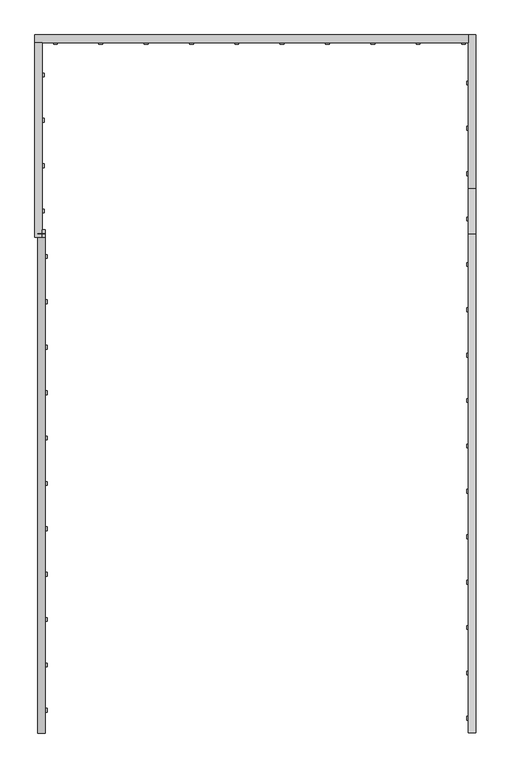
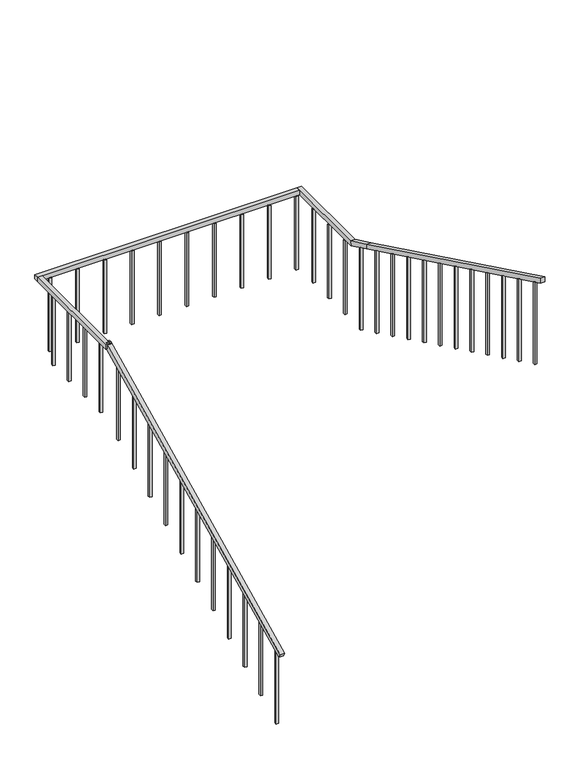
"""IFC4 building model written with IfcOpenShell, lengths in millimetres: railing geometry, ADSK_Стандартное_h 900 Поручень квадратный без направляющих."""

from ifc_helpers import new_model, si_unit, frame, origin, place, context, project, spatial, polyline, outline, extrude, faceted_brep, source, transform, mapped, element, save


def railing_b141eba5(model_context):
    return source(origin(), model_context, "Body", "SolidModel", [
        faceted_brep([(-24826.9240021, 16519.4362632, 1045.8333333), (-24826.9240021, 16541.2958986, 1000.8649406), (-24776.9240021, 16541.2958986, 1000.8649406), (-24776.9240021, 16519.4362632, 1045.8333333), (-24826.9240021, 19819.4362632, 2650.0), (-24776.9240021, 19819.4362632, 2650.0), (-24776.9240021, 19841.2958986, 2605.0316073), (-24826.9240021, 19841.2958986, 2605.0316073)], [[[0, 1, 2, 3]], [[4, 5, 6, 7]], [[1, 0, 4, 7]], [[2, 1, 7, 6]], [[3, 2, 6, 5]], [[0, 3, 5, 4]]]),
        faceted_brep([(-24776.9240021, 19794.8362632, 2650.0), (-24776.9240021, 19794.8362632, 2600.0), (-24776.9240021, 19844.8362632, 2600.0), (-24776.9240021, 19844.8362632, 2650.0), (-24796.9240021, 19794.8362632, 2650.0), (-24796.9240021, 19844.8362632, 2650.0), (-24796.9240021, 19844.8362632, 2600.0), (-24796.9240021, 19794.8362632, 2600.0)], [[[0, 1, 2, 3]], [[4, 5, 6, 7]], [[1, 0, 4, 7]], [[2, 1, 7, 6]], [[3, 2, 6, 5]], [[0, 3, 5, 4]]]),
        faceted_brep([(-24846.9240021, 19794.8362632, 2650.0), (-24846.9240021, 19794.8362632, 2600.0), (-24796.9240021, 19794.8362632, 2600.0), (-24796.9240021, 19794.8362632, 2650.0), (-24846.9240021, 21083.6362632, 2650.0), (-24796.9240021, 21083.6362632, 2650.0), (-24796.9240021, 21083.6362632, 2600.0), (-24846.9240021, 21083.6362632, 2600.0)], [[[0, 1, 2, 3]], [[4, 5, 6, 7]], [[1, 0, 4, 7]], [[2, 1, 7, 6]], [[3, 2, 6, 5]], [[0, 3, 5, 4]]]),
        faceted_brep([(-24846.9240021, 21133.6362632, 2650.0), (-24846.9240021, 21133.6362632, 2600.0), (-24846.9240021, 21083.6362632, 2600.0), (-24846.9240021, 21083.6362632, 2650.0), (-21978.1240021, 21133.6362632, 2650.0), (-21978.1240021, 21083.6362632, 2650.0), (-21978.1240021, 21083.6362632, 2600.0), (-21978.1240021, 21133.6362632, 2600.0)], [[[0, 1, 2, 3]], [[4, 5, 6, 7]], [[1, 0, 4, 7]], [[2, 1, 7, 6]], [[3, 2, 6, 5]], [[0, 3, 5, 4]]]),
        faceted_brep([(-21928.1240021, 21133.6362632, 2650.0), (-21928.1240021, 21133.6362632, 2600.0), (-21978.1240021, 21133.6362632, 2600.0), (-21978.1240021, 21133.6362632, 2650.0), (-21928.1240021, 20119.4362632, 2650.0), (-21928.1240021, 20107.9273629, 2600.0), (-21978.1240021, 20107.9273629, 2600.0), (-21978.1240021, 20119.4362632, 2650.0), (-21928.1240021, 19819.4362632, 2795.8333333), (-21978.1240021, 19819.4362632, 2795.8333333), (-21978.1240021, 19819.4362632, 2740.238729), (-21928.1240021, 19819.4362632, 2740.238729)], [[[0, 1, 2, 3]], [[1, 0, 4, 5]], [[2, 1, 5, 6]], [[3, 2, 6, 7]], [[0, 3, 7, 4]], [[8, 9, 10, 11]], [[5, 4, 8, 11]], [[6, 5, 11, 10]], [[7, 6, 10, 9]], [[4, 7, 9, 8]]]),
        faceted_brep([(-21928.1240021, 19819.4362632, 2795.8333333), (-21928.1240021, 19819.4362632, 2740.238729), (-21978.1240021, 19819.4362632, 2740.238729), (-21978.1240021, 19819.4362632, 2795.8333333), (-21928.1240021, 16519.4362632, 4400.0), (-21978.1240021, 16519.4362632, 4400.0), (-21978.1240021, 16519.4362632, 4344.4053957), (-21928.1240021, 16519.4362632, 4344.4053957)], [[[0, 1, 2, 3]], [[4, 5, 6, 7]], [[1, 0, 4, 7]], [[2, 1, 7, 6]], [[3, 2, 6, 5]], [[0, 3, 5, 4]]]),
        extrude(outline(polyline([(16629.1362632, 3354.1666667), (16604.1362632, 3354.1666667), (16604.1362632, 4308.8263889), (16629.1362632, 4296.6736111), (16629.1362632, 3354.1666667)])), frame((-21990.6240021, 0.0, 0.0), z_axis=(1.0, 0.0, 0.0), x_axis=(0.0, 1.0, 0.0)), (0.0, 0.0, 1.0), 25.0),
        extrude(outline(polyline([(16929.1362632, 3208.3333333), (16904.1362632, 3208.3333333), (16904.1362632, 4162.9930556), (16929.1362632, 4150.8402778), (16929.1362632, 3208.3333333)])), frame((-21990.6240021, 0.0, 0.0), z_axis=(1.0, 0.0, 0.0), x_axis=(0.0, 1.0, 0.0)), (0.0, 0.0, 1.0), 25.0),
        extrude(outline(polyline([(17229.1362632, 3062.5), (17204.1362632, 3062.5), (17204.1362632, 4017.1597222), (17229.1362632, 4005.0069444), (17229.1362632, 3062.5)])), frame((-21990.6240021, 0.0, 0.0), z_axis=(1.0, 0.0, 0.0), x_axis=(0.0, 1.0, 0.0)), (0.0, 0.0, 1.0), 25.0),
        extrude(outline(polyline([(17529.1362632, 2916.6666667), (17504.1362632, 2916.6666667), (17504.1362632, 3871.3263889), (17529.1362632, 3859.1736111), (17529.1362632, 2916.6666667)])), frame((-21990.6240021, 0.0, 0.0), z_axis=(1.0, 0.0, 0.0), x_axis=(0.0, 1.0, 0.0)), (0.0, 0.0, 1.0), 25.0),
        extrude(outline(polyline([(17829.1362632, 2770.8333333), (17804.1362632, 2770.8333333), (17804.1362632, 3725.4930556), (17829.1362632, 3713.3402778), (17829.1362632, 2770.8333333)])), frame((-21990.6240021, 0.0, 0.0), z_axis=(1.0, 0.0, 0.0), x_axis=(0.0, 1.0, 0.0)), (0.0, 0.0, 1.0), 25.0),
        extrude(outline(polyline([(18129.1362632, 2625.0), (18104.1362632, 2625.0), (18104.1362632, 3579.6597222), (18129.1362632, 3567.5069444), (18129.1362632, 2625.0)])), frame((-21990.6240021, 0.0, 0.0), z_axis=(1.0, 0.0, 0.0), x_axis=(0.0, 1.0, 0.0)), (0.0, 0.0, 1.0), 25.0),
        extrude(outline(polyline([(18429.1362632, 2479.1666667), (18404.1362632, 2479.1666667), (18404.1362632, 3433.8263889), (18429.1362632, 3421.6736111), (18429.1362632, 2479.1666667)])), frame((-21990.6240021, 0.0, 0.0), z_axis=(1.0, 0.0, 0.0), x_axis=(0.0, 1.0, 0.0)), (0.0, 0.0, 1.0), 25.0),
        extrude(outline(polyline([(18729.1362632, 2333.3333333), (18704.1362632, 2333.3333333), (18704.1362632, 3287.9930556), (18729.1362632, 3275.8402778), (18729.1362632, 2333.3333333)])), frame((-21990.6240021, 0.0, 0.0), z_axis=(1.0, 0.0, 0.0), x_axis=(0.0, 1.0, 0.0)), (0.0, 0.0, 1.0), 25.0),
        extrude(outline(polyline([(19029.1362632, 2187.5), (19004.1362632, 2187.5), (19004.1362632, 3142.1597222), (19029.1362632, 3130.0069444), (19029.1362632, 2187.5)])), frame((-21990.6240021, 0.0, 0.0), z_axis=(1.0, 0.0, 0.0), x_axis=(0.0, 1.0, 0.0)), (0.0, 0.0, 1.0), 25.0),
        extrude(outline(polyline([(19329.1362632, 2041.6666667), (19304.1362632, 2041.6666667), (19304.1362632, 2996.3263889), (19329.1362632, 2984.1736111), (19329.1362632, 2041.6666667)])), frame((-21990.6240021, 0.0, 0.0), z_axis=(1.0, 0.0, 0.0), x_axis=(0.0, 1.0, 0.0)), (0.0, 0.0, 1.0), 25.0),
        extrude(outline(polyline([(19629.1362632, 1895.8333333), (19604.1362632, 1895.8333333), (19604.1362632, 2850.4930556), (19629.1362632, 2838.3402778), (19629.1362632, 1895.8333333)])), frame((-21990.6240021, 0.0, 0.0), z_axis=(1.0, 0.0, 0.0), x_axis=(0.0, 1.0, 0.0)), (0.0, 0.0, 1.0), 25.0),
        extrude(outline(polyline([(19929.1362632, 1750.0), (19904.1362632, 1750.0), (19904.1362632, 2704.6597222), (19929.1362632, 2692.5069444), (19929.1362632, 1750.0)])), frame((-21990.6240021, 0.0, 0.0), z_axis=(1.0, 0.0, 0.0), x_axis=(0.0, 1.0, 0.0)), (0.0, 0.0, 1.0), 25.0),
        extrude(outline(polyline([(-21965.6240021, 20229.1362632), (-21965.6240021, 20204.1362632), (-21990.6240021, 20204.1362632), (-21990.6240021, 20229.1362632), (-21965.6240021, 20229.1362632)])), frame((0.0, 0.0, 1750.0), z_axis=(0.0, 0.0, 1.0), x_axis=(1.0, 0.0, 0.0)), (0.0, 0.0, 1.0), 850.0),
        extrude(outline(polyline([(-21965.6240021, 20529.1362632), (-21965.6240021, 20504.1362632), (-21990.6240021, 20504.1362632), (-21990.6240021, 20529.1362632), (-21965.6240021, 20529.1362632)])), frame((0.0, 0.0, 1750.0), z_axis=(0.0, 0.0, 1.0), x_axis=(1.0, 0.0, 0.0)), (0.0, 0.0, 1.0), 850.0),
        extrude(outline(polyline([(-21965.6240021, 20829.1362632), (-21965.6240021, 20804.1362632), (-21990.6240021, 20804.1362632), (-21990.6240021, 20829.1362632), (-21965.6240021, 20829.1362632)])), frame((0.0, 0.0, 1750.0), z_axis=(0.0, 0.0, 1.0), x_axis=(1.0, 0.0, 0.0)), (0.0, 0.0, 1.0), 850.0),
        extrude(outline(polyline([(-22023.6240021, 21096.1362632), (-21998.6240021, 21096.1362632), (-21998.6240021, 21071.1362632), (-22023.6240021, 21071.1362632), (-22023.6240021, 21096.1362632)])), frame((0.0, 0.0, 1750.0), z_axis=(0.0, 0.0, 1.0), x_axis=(1.0, 0.0, 0.0)), (0.0, 0.0, 1.0), 850.0),
        extrude(outline(polyline([(-22323.6240021, 21096.1362632), (-22298.6240021, 21096.1362632), (-22298.6240021, 21071.1362632), (-22323.6240021, 21071.1362632), (-22323.6240021, 21096.1362632)])), frame((0.0, 0.0, 1750.0), z_axis=(0.0, 0.0, 1.0), x_axis=(1.0, 0.0, 0.0)), (0.0, 0.0, 1.0), 850.0),
        extrude(outline(polyline([(-22623.6240021, 21096.1362632), (-22598.6240021, 21096.1362632), (-22598.6240021, 21071.1362632), (-22623.6240021, 21071.1362632), (-22623.6240021, 21096.1362632)])), frame((0.0, 0.0, 1750.0), z_axis=(0.0, 0.0, 1.0), x_axis=(1.0, 0.0, 0.0)), (0.0, 0.0, 1.0), 850.0),
        extrude(outline(polyline([(-22923.6240021, 21096.1362632), (-22898.6240021, 21096.1362632), (-22898.6240021, 21071.1362632), (-22923.6240021, 21071.1362632), (-22923.6240021, 21096.1362632)])), frame((0.0, 0.0, 1750.0), z_axis=(0.0, 0.0, 1.0), x_axis=(1.0, 0.0, 0.0)), (0.0, 0.0, 1.0), 850.0),
        extrude(outline(polyline([(-23223.6240021, 21096.1362632), (-23198.6240021, 21096.1362632), (-23198.6240021, 21071.1362632), (-23223.6240021, 21071.1362632), (-23223.6240021, 21096.1362632)])), frame((0.0, 0.0, 1750.0), z_axis=(0.0, 0.0, 1.0), x_axis=(1.0, 0.0, 0.0)), (0.0, 0.0, 1.0), 850.0),
        extrude(outline(polyline([(-23523.6240021, 21096.1362632), (-23498.6240021, 21096.1362632), (-23498.6240021, 21071.1362632), (-23523.6240021, 21071.1362632), (-23523.6240021, 21096.1362632)])), frame((0.0, 0.0, 1750.0), z_axis=(0.0, 0.0, 1.0), x_axis=(1.0, 0.0, 0.0)), (0.0, 0.0, 1.0), 850.0),
        extrude(outline(polyline([(-23823.6240021, 21096.1362632), (-23798.6240021, 21096.1362632), (-23798.6240021, 21071.1362632), (-23823.6240021, 21071.1362632), (-23823.6240021, 21096.1362632)])), frame((0.0, 0.0, 1750.0), z_axis=(0.0, 0.0, 1.0), x_axis=(1.0, 0.0, 0.0)), (0.0, 0.0, 1.0), 850.0),
        extrude(outline(polyline([(-24123.6240021, 21096.1362632), (-24098.6240021, 21096.1362632), (-24098.6240021, 21071.1362632), (-24123.6240021, 21071.1362632), (-24123.6240021, 21096.1362632)])), frame((0.0, 0.0, 1750.0), z_axis=(0.0, 0.0, 1.0), x_axis=(1.0, 0.0, 0.0)), (0.0, 0.0, 1.0), 850.0),
        extrude(outline(polyline([(-24423.6240021, 21096.1362632), (-24398.6240021, 21096.1362632), (-24398.6240021, 21071.1362632), (-24423.6240021, 21071.1362632), (-24423.6240021, 21096.1362632)])), frame((0.0, 0.0, 1750.0), z_axis=(0.0, 0.0, 1.0), x_axis=(1.0, 0.0, 0.0)), (0.0, 0.0, 1.0), 850.0),
        extrude(outline(polyline([(-24723.6240021, 21096.1362632), (-24698.6240021, 21096.1362632), (-24698.6240021, 21071.1362632), (-24723.6240021, 21071.1362632), (-24723.6240021, 21096.1362632)])), frame((0.0, 0.0, 1750.0), z_axis=(0.0, 0.0, 1.0), x_axis=(1.0, 0.0, 0.0)), (0.0, 0.0, 1.0), 850.0),
        extrude(outline(polyline([(-24809.4240021, 20856.9362632), (-24809.4240021, 20881.9362632), (-24784.4240021, 20881.9362632), (-24784.4240021, 20856.9362632), (-24809.4240021, 20856.9362632)])), frame((0.0, 0.0, 1750.0), z_axis=(0.0, 0.0, 1.0), x_axis=(1.0, 0.0, 0.0)), (0.0, 0.0, 1.0), 850.0),
        extrude(outline(polyline([(-24809.4240021, 20556.9362632), (-24809.4240021, 20581.9362632), (-24784.4240021, 20581.9362632), (-24784.4240021, 20556.9362632), (-24809.4240021, 20556.9362632)])), frame((0.0, 0.0, 1750.0), z_axis=(0.0, 0.0, 1.0), x_axis=(1.0, 0.0, 0.0)), (0.0, 0.0, 1.0), 850.0),
        extrude(outline(polyline([(-24809.4240021, 20256.9362632), (-24809.4240021, 20281.9362632), (-24784.4240021, 20281.9362632), (-24784.4240021, 20256.9362632), (-24809.4240021, 20256.9362632)])), frame((0.0, 0.0, 1750.0), z_axis=(0.0, 0.0, 1.0), x_axis=(1.0, 0.0, 0.0)), (0.0, 0.0, 1.0), 850.0),
        extrude(outline(polyline([(-24809.4240021, 19956.9362632), (-24809.4240021, 19981.9362632), (-24784.4240021, 19981.9362632), (-24784.4240021, 19956.9362632), (-24809.4240021, 19956.9362632)])), frame((0.0, 0.0, 1750.0), z_axis=(0.0, 0.0, 1.0), x_axis=(1.0, 0.0, 0.0)), (0.0, 0.0, 1.0), 850.0),
        extrude(outline(polyline([(19656.9362632, 2521.0069444), (19681.9362632, 2533.1597222), (19681.9362632, 1604.1666667), (19656.9362632, 1604.1666667), (19656.9362632, 2521.0069444)])), frame((-24789.4240021, 0.0, 0.0), z_axis=(1.0, 0.0, 0.0), x_axis=(0.0, 1.0, 0.0)), (0.0, 0.0, 1.0), 25.0),
        extrude(outline(polyline([(19356.9362632, 2375.1736111), (19381.9362632, 2387.3263889), (19381.9362632, 1458.3333333), (19356.9362632, 1458.3333333), (19356.9362632, 2375.1736111)])), frame((-24789.4240021, 0.0, 0.0), z_axis=(1.0, 0.0, 0.0), x_axis=(0.0, 1.0, 0.0)), (0.0, 0.0, 1.0), 25.0),
        extrude(outline(polyline([(19056.9362632, 2229.3402778), (19081.9362632, 2241.4930556), (19081.9362632, 1312.5), (19056.9362632, 1312.5), (19056.9362632, 2229.3402778)])), frame((-24789.4240021, 0.0, 0.0), z_axis=(1.0, 0.0, 0.0), x_axis=(0.0, 1.0, 0.0)), (0.0, 0.0, 1.0), 25.0),
        extrude(outline(polyline([(18756.9362632, 2083.5069444), (18781.9362632, 2095.6597222), (18781.9362632, 1166.6666667), (18756.9362632, 1166.6666667), (18756.9362632, 2083.5069444)])), frame((-24789.4240021, 0.0, 0.0), z_axis=(1.0, 0.0, 0.0), x_axis=(0.0, 1.0, 0.0)), (0.0, 0.0, 1.0), 25.0),
        extrude(outline(polyline([(18456.9362632, 1937.6736111), (18481.9362632, 1949.8263889), (18481.9362632, 1020.8333333), (18456.9362632, 1020.8333333), (18456.9362632, 1937.6736111)])), frame((-24789.4240021, 0.0, 0.0), z_axis=(1.0, 0.0, 0.0), x_axis=(0.0, 1.0, 0.0)), (0.0, 0.0, 1.0), 25.0),
        extrude(outline(polyline([(18156.9362632, 1791.8402778), (18181.9362632, 1803.9930556), (18181.9362632, 875.0), (18156.9362632, 875.0), (18156.9362632, 1791.8402778)])), frame((-24789.4240021, 0.0, 0.0), z_axis=(1.0, 0.0, 0.0), x_axis=(0.0, 1.0, 0.0)), (0.0, 0.0, 1.0), 25.0),
        extrude(outline(polyline([(17856.9362632, 1646.0069444), (17881.9362632, 1658.1597222), (17881.9362632, 729.1666667), (17856.9362632, 729.1666667), (17856.9362632, 1646.0069444)])), frame((-24789.4240021, 0.0, 0.0), z_axis=(1.0, 0.0, 0.0), x_axis=(0.0, 1.0, 0.0)), (0.0, 0.0, 1.0), 25.0),
        extrude(outline(polyline([(17556.9362632, 1500.1736111), (17581.9362632, 1512.3263889), (17581.9362632, 583.3333333), (17556.9362632, 583.3333333), (17556.9362632, 1500.1736111)])), frame((-24789.4240021, 0.0, 0.0), z_axis=(1.0, 0.0, 0.0), x_axis=(0.0, 1.0, 0.0)), (0.0, 0.0, 1.0), 25.0),
        extrude(outline(polyline([(17256.9362632, 1354.3402778), (17281.9362632, 1366.4930556), (17281.9362632, 437.5), (17256.9362632, 437.5), (17256.9362632, 1354.3402778)])), frame((-24789.4240021, 0.0, 0.0), z_axis=(1.0, 0.0, 0.0), x_axis=(0.0, 1.0, 0.0)), (0.0, 0.0, 1.0), 25.0),
        extrude(outline(polyline([(16956.9362632, 1208.5069444), (16981.9362632, 1220.6597222), (16981.9362632, 291.6666667), (16956.9362632, 291.6666667), (16956.9362632, 1208.5069444)])), frame((-24789.4240021, 0.0, 0.0), z_axis=(1.0, 0.0, 0.0), x_axis=(0.0, 1.0, 0.0)), (0.0, 0.0, 1.0), 25.0),
        extrude(outline(polyline([(16656.9362632, 1062.6736111), (16681.9362632, 1074.8263889), (16681.9362632, 145.8333333), (16656.9362632, 145.8333333), (16656.9362632, 1062.6736111)])), frame((-24789.4240021, 0.0, 0.0), z_axis=(1.0, 0.0, 0.0), x_axis=(0.0, 1.0, 0.0)), (0.0, 0.0, 1.0), 25.0),
    ])


if __name__ == "__main__":
    model = new_model("IFC4")
    model_context = context("Model", 3, world=origin())
    ifc_project = project(units=[si_unit("LENGTHUNIT", "METRE", prefix="MILLI")], contexts=[model_context])
    site = spatial("IfcSite", under=ifc_project)
    building = spatial("IfcBuilding", under=site)
    placement = place(None, origin())
    railing_shape = railing_b141eba5(model_context)
    element("IfcRailing", 1, ObjectType="ADSK_Стандартное_h 900 Поручень квадратный без направляющих", at=placement, inside=building, context=model_context, shape_type="MappedRepresentation", body=[
        mapped(railing_shape, transform((0.0, 0.0, 0.0), x_axis=(1.0, 0.0, 0.0), y_axis=(0.0, 1.0, 0.0), z_axis=(0.0, 0.0, 1.0))),
    ])
    save(model, "model.ifc")
